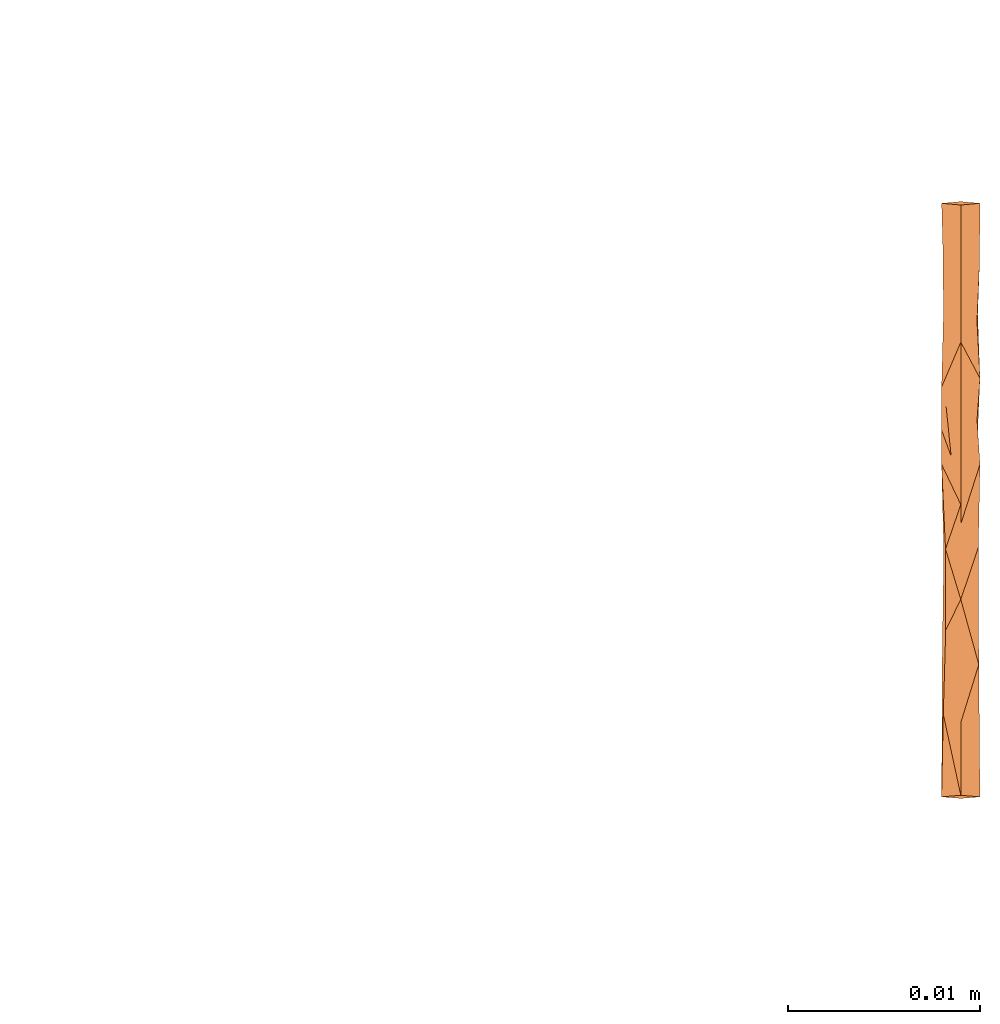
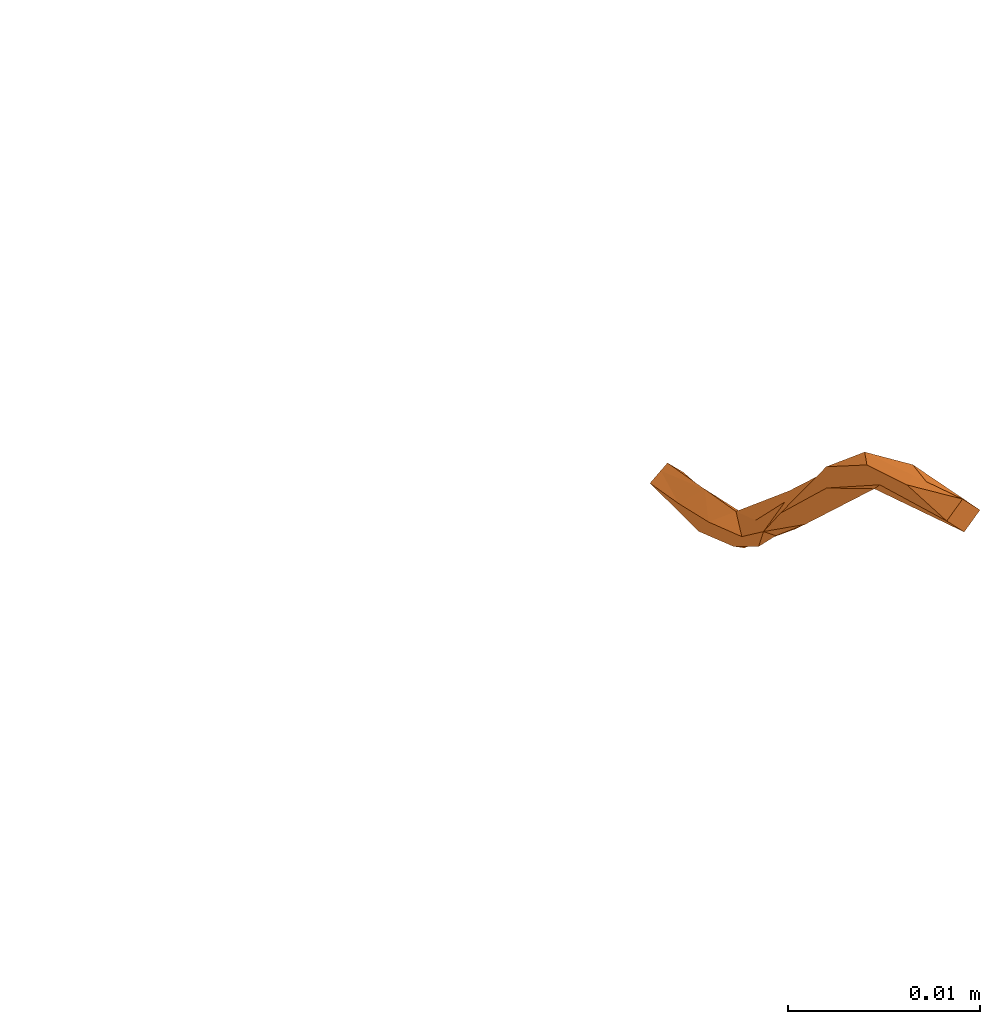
# One storey, part 196 of 197: 1 proxy.
"""IFC2X3 building model written with IfcOpenShell, lengths in metres."""

from ifc_helpers import new_model, entity, si_unit, converted_unit, direction, frame, origin, place, context, subcontext, project, spatial, faceted_brep, source, transform, mapped, material, type_object, type_shapes, element, save


model = new_model("IFC2X3")

# Units and contexts
model_context = context("Model", 3, precision=1e-05, world=origin(), true_north=direction((6.123031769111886e-17, 1.0)))
body_context = subcontext(model_context, "Body", "Model", "MODEL_VIEW")
ifc_project = project(units=[si_unit("LENGTHUNIT", "METRE"), converted_unit("PLANEANGLEUNIT", "DEGREE", entity("IfcPlaneAngleMeasure", 0.017453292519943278), si_unit("PLANEANGLEUNIT", "RADIAN"), dimensions=[0, 0, 0, 0, 0, 0, 0]), si_unit("AREAUNIT", "SQUARE_METRE")], contexts=[model_context])

# Site, building, storey
site_placement = place(None, origin())
site = spatial("IfcSite", under=ifc_project, at=site_placement, Name="Default", CompositionType="ELEMENT")
building_placement = place(site_placement, origin())
building = spatial("IfcBuilding", under=site, at=building_placement, CompositionType="ELEMENT")
storey_placement = place(building_placement, origin())
storey = spatial("IfcBuildingStorey", under=building, at=storey_placement, Name="Niveau 0", CompositionType="ELEMENT", Elevation=0.0)

# Proxy
ifc_material = material(Name="<Unnamed>")
building_element_proxy_type = type_object("IfcBuildingElementProxyType", Name="Attente électrique-50e:FM ELEC", PredefinedType="NOTDEFINED", material=ifc_material)
shared_shape = source(origin(), body_context, "Body", "Brep", [
    faceted_brep([(0.00015679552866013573, 0.02468901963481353, 0.0071236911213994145), (-0.0008432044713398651, 0.024606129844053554, 0.00812024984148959), (0.00015679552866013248, 0.024523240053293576, 0.009116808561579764), (0.0011567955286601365, 0.024606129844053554, 0.008120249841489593), (0.0010682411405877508, 0.020307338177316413, 0.007781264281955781), (0.0001567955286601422, 0.020902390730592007, 0.005938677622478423), (0.0011263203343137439, 0.017575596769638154, 0.006150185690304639), (0.0001567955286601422, 0.015326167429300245, 0.00419361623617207), (0.00015679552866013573, 0.020007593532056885, 0.005658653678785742), (0.00015679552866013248, 0.014326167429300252, 0.005925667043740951), (0.0009522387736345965, 0.011698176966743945, 0.0036743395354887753), (0.0009420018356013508, 0.015917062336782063, 0.006344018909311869), (0.00015679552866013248, 0.010395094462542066, 0.0023079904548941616), (0.00015679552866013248, 0.009383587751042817, 0.0013771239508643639), (0.00015679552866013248, 0.006464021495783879, -0.00130968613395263), (0.0006567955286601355, 0.006874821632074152, -0.0015947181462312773), (0.0011567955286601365, 0.007285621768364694, -0.0018797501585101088), (0.0001567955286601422, 0.008107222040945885, -0.002449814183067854), (0.0010477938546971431, 0.01190066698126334, 0.002476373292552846), (0.0001567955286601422, 0.011716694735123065, 0.000871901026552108), (0.00015679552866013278, 0.020736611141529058, 0.007931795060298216), (0.00015679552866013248, 0.01942470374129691, 0.0075212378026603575), (-0.000613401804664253, 0.017791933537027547, 0.005814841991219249), (-0.0008432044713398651, 0.007285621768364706, -0.0018797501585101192), (-0.0006561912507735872, 0.013063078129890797, 0.003217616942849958), (-0.0007811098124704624, 0.017711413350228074, 0.006845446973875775), (-0.000757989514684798, 0.011606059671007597, 0.0033430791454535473), (0.00015679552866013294, -0.006217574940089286, -0.0072232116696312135), (-0.0008432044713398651, -0.006308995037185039, -0.00821902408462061), (-0.00022603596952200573, -0.006365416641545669, -0.008833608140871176), (0.00015679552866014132, -0.006400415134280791, -0.009214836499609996), (0.0011567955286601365, -0.006308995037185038, -0.008219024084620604), (0.0005396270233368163, -0.0062525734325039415, -0.00760444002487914), (0.00015679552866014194, 0.003425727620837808, -0.0063951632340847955), (0.0008639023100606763, 0.004493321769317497, -0.0058064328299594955), (0.0009254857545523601, 0.001962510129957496, -0.0072987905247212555), (0.0001567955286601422, -0.0025053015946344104, -0.008536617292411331), (0.00015679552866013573, 0.004937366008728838, -0.005121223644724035), (0.00015679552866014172, 0.005083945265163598, -0.004997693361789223), (0.00015679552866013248, -0.002322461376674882, -0.0065449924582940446), (0.00015679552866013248, -0.002647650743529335, -0.006601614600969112), (0.0009203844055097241, 0.0043012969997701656, -0.004224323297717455), (0.00015679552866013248, 0.0036931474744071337, -0.00364485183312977), (0.00015679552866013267, 0.0034407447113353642, -0.0038575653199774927), (0.00015679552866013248, 0.0009222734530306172, -0.005980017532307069), (0.0010089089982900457, -0.0014622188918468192, -0.008405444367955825), (0.0010645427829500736, -0.00036395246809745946, -0.007116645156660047), (0.0011567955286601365, 0.003257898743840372, -0.005816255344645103), (0.0001567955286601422, 0.0017675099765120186, -0.007792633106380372), (0.0010782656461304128, -0.003480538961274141, -0.007818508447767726), (0.0011516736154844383, 0.00551461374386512, -0.004127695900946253), (-0.0006872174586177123, 0.004983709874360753, -0.0037543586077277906), (-0.0008432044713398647, 0.0028123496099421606, -0.006099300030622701), (-0.0006218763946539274, -0.0034380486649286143, -0.008835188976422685), (-0.0008173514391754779, -0.0031055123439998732, -0.007939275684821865), (-0.0007245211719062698, -0.0005251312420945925, -0.008103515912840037), (-0.0007251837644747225, 0.005518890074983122, -0.00463485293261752), (-0.0006856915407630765, -0.00016389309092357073, -0.00692183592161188)], [[[0, 1, 2, 3]], [[2, 4, 3]], [[3, 5, 0]], [[6, 5, 3]], [[6, 7, 8, 5]], [[9, 10, 11]], [[10, 9, 12, 13]], [[13, 14, 15, 16]], [[16, 10, 13]], [[17, 18, 16]], [[18, 17, 19, 7]], [[11, 10, 18]], [[6, 18, 7]], [[11, 18, 6]], [[10, 16, 18]], [[4, 6, 3]], [[4, 11, 6]], [[4, 2, 20, 21]], [[21, 9, 11]], [[21, 11, 4]], [[22, 1, 0]], [[23, 24, 19]], [[25, 9, 21, 20]], [[25, 20, 1]], [[7, 24, 22]], [[25, 24, 26]], [[24, 7, 19]], [[24, 23, 26]], [[23, 12, 26]], [[20, 2, 1]], [[25, 22, 24]], [[9, 25, 26]], [[17, 23, 19]], [[1, 22, 25]], [[22, 0, 5, 8, 7]], [[23, 14, 13, 12]], [[12, 9, 26]], [[27, 28, 29, 30, 31, 32]], [[33, 34, 35]], [[31, 30, 36]], [[34, 33, 37, 38]], [[32, 39, 40, 27]], [[41, 14, 42, 43, 44]], [[45, 31, 36]], [[44, 46, 47]], [[39, 46, 44]], [[48, 33, 35]], [[15, 14, 41]], [[35, 46, 45]], [[49, 32, 31]], [[45, 46, 49]], [[16, 50, 17]], [[32, 49, 39]], [[39, 49, 46]], [[31, 45, 49]], [[48, 45, 36]], [[47, 35, 34]], [[50, 38, 17]], [[50, 47, 34]], [[46, 35, 47]], [[45, 48, 35]], [[50, 34, 38]], [[41, 47, 50]], [[50, 16, 15]], [[47, 41, 44]], [[15, 41, 50]], [[43, 51, 52]], [[51, 14, 23]], [[43, 52, 44]], [[53, 54, 55]], [[56, 17, 38, 37, 33, 48]], [[54, 53, 28]], [[48, 55, 52]], [[52, 55, 57]], [[56, 52, 51]], [[52, 57, 44]], [[54, 57, 55]], [[48, 36, 55]], [[40, 57, 54]], [[36, 30, 29]], [[54, 27, 40]], [[57, 40, 39, 44]], [[54, 28, 27]], [[53, 55, 36]], [[36, 29, 53]], [[28, 53, 29]], [[51, 43, 42, 14]], [[52, 56, 48]], [[56, 51, 23]], [[17, 56, 23]]]),
])
type_shapes(building_element_proxy_type, [shared_shape])
proxy_placement = place(storey_placement, frame((30.320725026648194, 146.71261901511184, 0.0), z_axis=(0.0, 0.0, 1.0), x_axis=(-1.0, 0.0, 0.0)))
element("IfcBuildingElementProxy", 1, at=proxy_placement, inside=storey, type_object=building_element_proxy_type, material=ifc_material, Name="Attente électrique-50e:FM ELEC", ObjectType="Attente électrique-50e:FM ELEC", context=body_context, shape_type="MappedRepresentation", body=[
    mapped(shared_shape, transform((0.0, 0.0, 0.0), scale=1.0)),
])

save(model, "model.ifc")
